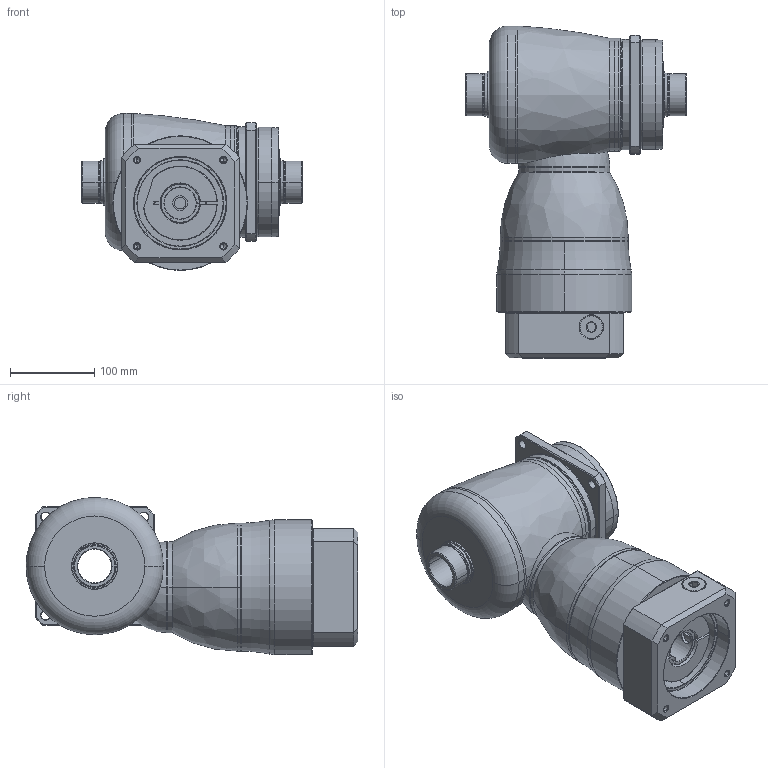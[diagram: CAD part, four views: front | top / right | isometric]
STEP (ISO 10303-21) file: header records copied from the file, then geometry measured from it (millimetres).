
FILE_DESCRIPTION((''),'2;1');
FILE_NAME('KF140_S4_2ST_38-P0409900101_ASM','2016-07-25T',('d01943'),(''),'PRO/ENGINEER BY PARAMETRIC TECHNOLOGY CORPORATION, 2008410','PRO/ENGINEER BY PARAMETRIC TECHNOLOGY CORPORATION, 2008410','');
FILE_SCHEMA(('CONFIG_CONTROL_DESIGN'));
Length unit declared in the file: millimetre
Products named in the file (11): P1008500002; P1804500001; P0914500001; P1315500001; P1007500001; P1317500501; P0409900101; P0503900012; P0912405001; 21711422019; KF140_S4_2ST_38-P0409900101_ASM
Assembly tree (10 placements, depth 2):
  KF140_S4_2ST_38-P0409900101_ASM
    P1008500002
    P1804500001
    P0914500001
    P1315500001
    P1007500001
    P1317500501
    P0409900101
    P0503900012
    P0912405001
    21711422019
Bounding box: 262 x 394 x 186.5 mm (x, y, z)
Volume: 5858664.3 mm3; surface area: 654713.8 mm2
Topology: 11 solids, 11 shells, 490 faces, 1082 edges, 638 vertices
Faces by surface type: cylinder 166, cone 134, plane 101, torus 66, bspline 21, sphere 2
Entity records: 18520 total; most frequent: CARTESIAN_POINT 7411, DIRECTION 2479, ORIENTED_EDGE 2128, EDGE_CURVE 1064, AXIS2_PLACEMENT_3D 1052, VERTEX_POINT 638, EDGE_LOOP 562, CIRCLE 562
